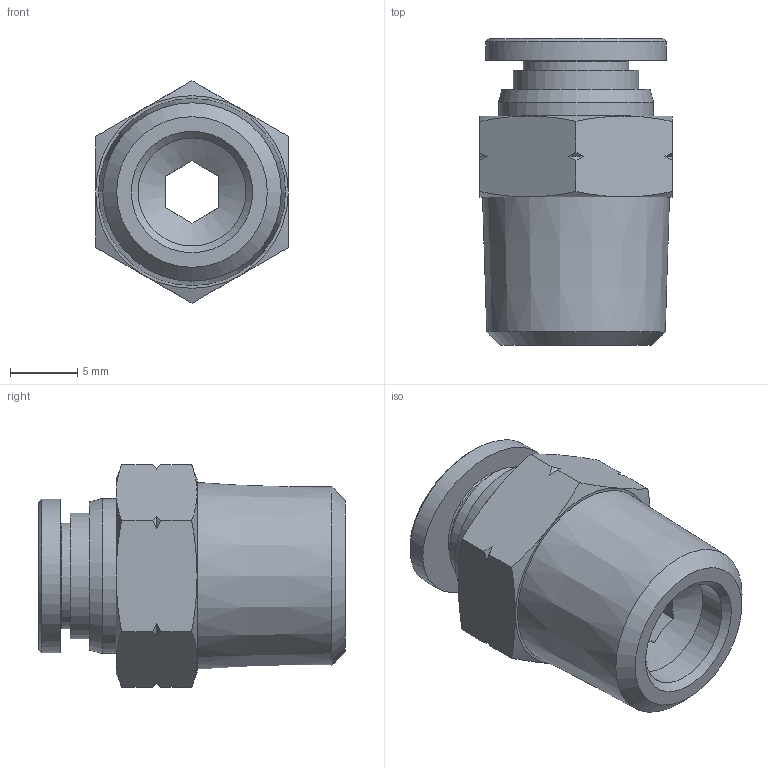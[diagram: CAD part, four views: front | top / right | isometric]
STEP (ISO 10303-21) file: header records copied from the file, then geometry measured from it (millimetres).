
FILE_DESCRIPTION((''),'2;1');
FILE_NAME('C:\Users\user0117\Desktop\김진일\홈페이지\1_4\Internet\GPC 1_4-N02U.stp','2019-09-02T10:01:36',('user0117'),(''),'Autodesk Inventor 2013','Autodesk Inventor 2013','');
FILE_SCHEMA(('AUTOMOTIVE_DESIGN { 1 0 10303 214 1 1 1 1 }'));
Length unit declared in the file: millimetre
Products named in the file (5): GPC 1_4-N02U.iam (세부 수준1); GPC BODY 1-4 N02(BRASS); G-COLLAR G1-4C.iam (세부 수준1); COLLAR G1-4C; SLEEVE G1-4
Assembly tree (4 placements, depth 3):
  GPC 1_4-N02U.iam (세부 수준1)
    GPC BODY 1-4 N02(BRASS)
    G-COLLAR G1-4C.iam (세부 수준1)
      COLLAR G1-4C
      SLEEVE G1-4
Bounding box: 14.29 x 22.75 x 16.5 mm (x, y, z)
Volume: 2404.5 mm3; surface area: 1896.2 mm2
Topology: 3 solids, 3 shells, 177 faces, 449 edges, 294 vertices
Faces by surface type: plane 111, cone 31, bspline 22, cylinder 13
Full cylindrical faces by diameter (mm): 6.55 x3, 7.85 x1, 8 x1, 9.3 x1, 11.5 x1
Entity records: 5628 total; most frequent: CARTESIAN_POINT 1459, ORIENTED_EDGE 860, DIRECTION 785, EDGE_CURVE 430, VERTEX_POINT 290, VECTOR 281, LINE 281, AXIS2_PLACEMENT_3D 252
